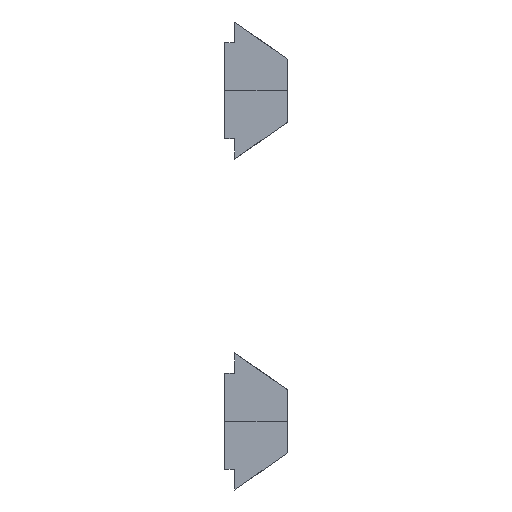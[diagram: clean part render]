
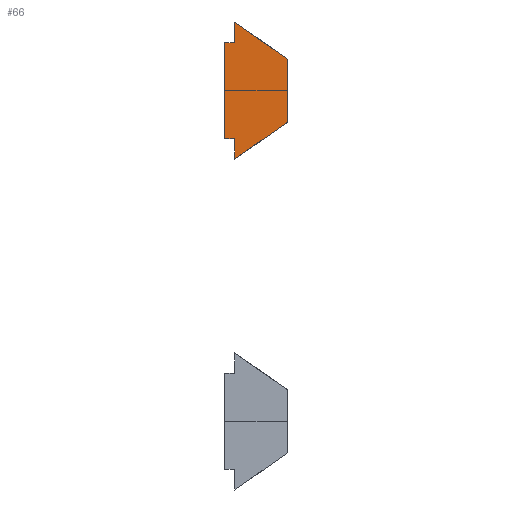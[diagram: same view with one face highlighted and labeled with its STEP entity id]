
A CAD part, left-side view. The second image highlights one B-rep face of the part: STEP entity #66.
In plain terms, the highlighted planar face has unit normal (-1, 0, 0) as drawn and (0, 1, 0) by its records, which use the part's own axes.
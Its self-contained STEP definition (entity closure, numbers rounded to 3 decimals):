
#66=ADVANCED_FACE('',(#79),#528,.T.);
#79=FACE_OUTER_BOUND('',#93,.T.);
#93=EDGE_LOOP('',(#144,#145,#146,#147,#148,#149,#150,#151));
#144=ORIENTED_EDGE('',*,*,#359,.F.);
#145=ORIENTED_EDGE('',*,*,#366,.F.);
#146=ORIENTED_EDGE('',*,*,#371,.F.);
#147=ORIENTED_EDGE('',*,*,#374,.F.);
#148=ORIENTED_EDGE('',*,*,#377,.F.);
#149=ORIENTED_EDGE('',*,*,#380,.F.);
#150=ORIENTED_EDGE('',*,*,#385,.F.);
#151=ORIENTED_EDGE('',*,*,#387,.F.);
#179=PCURVE('',#519,#251);
#186=PCURVE('',#520,#258);
#192=PCURVE('',#521,#264);
#196=PCURVE('',#522,#268);
#200=PCURVE('',#523,#272);
#204=PCURVE('',#524,#276);
#210=PCURVE('',#525,#282);
#214=PCURVE('',#526,#286);
#224=PCURVE('',#528,#296);
#225=PCURVE('',#528,#297);
#226=PCURVE('',#528,#298);
#227=PCURVE('',#528,#299);
#228=PCURVE('',#528,#300);
#229=PCURVE('',#528,#301);
#230=PCURVE('',#528,#302);
#231=PCURVE('',#528,#303);
#251=DEFINITIONAL_REPRESENTATION('',(#398),#1095);
#258=DEFINITIONAL_REPRESENTATION('',(#410),#1095);
#264=DEFINITIONAL_REPRESENTATION('',(#421),#1095);
#268=DEFINITIONAL_REPRESENTATION('',(#428),#1095);
#272=DEFINITIONAL_REPRESENTATION('',(#435),#1095);
#276=DEFINITIONAL_REPRESENTATION('',(#442),#1095);
#282=DEFINITIONAL_REPRESENTATION('',(#451),#1095);
#286=DEFINITIONAL_REPRESENTATION('',(#457),#1095);
#296=DEFINITIONAL_REPRESENTATION('',(#468),#1095);
#297=DEFINITIONAL_REPRESENTATION('',(#469),#1095);
#298=DEFINITIONAL_REPRESENTATION('',(#470),#1095);
#299=DEFINITIONAL_REPRESENTATION('',(#471),#1095);
#300=DEFINITIONAL_REPRESENTATION('',(#472),#1095);
#301=DEFINITIONAL_REPRESENTATION('',(#473),#1095);
#302=DEFINITIONAL_REPRESENTATION('',(#474),#1095);
#303=DEFINITIONAL_REPRESENTATION('',(#475),#1095);
#323=SURFACE_CURVE('',#397,(#179,#224),.PCURVE_S1.);
#330=SURFACE_CURVE('',#409,(#186,#225),.PCURVE_S1.);
#335=SURFACE_CURVE('',#420,(#192,#226),.PCURVE_S1.);
#338=SURFACE_CURVE('',#427,(#196,#227),.PCURVE_S1.);
#341=SURFACE_CURVE('',#434,(#200,#228),.PCURVE_S1.);
#344=SURFACE_CURVE('',#441,(#204,#229),.PCURVE_S1.);
#349=SURFACE_CURVE('',#450,(#210,#230),.PCURVE_S1.);
#351=SURFACE_CURVE('',#456,(#214,#231),.PCURVE_S1.);
#359=EDGE_CURVE('',#495,#496,#323,.T.);
#366=EDGE_CURVE('',#498,#495,#330,.T.);
#371=EDGE_CURVE('',#500,#498,#335,.T.);
#374=EDGE_CURVE('',#502,#500,#338,.T.);
#377=EDGE_CURVE('',#504,#502,#341,.T.);
#380=EDGE_CURVE('',#506,#504,#344,.T.);
#385=EDGE_CURVE('',#508,#506,#349,.T.);
#387=EDGE_CURVE('',#496,#508,#351,.T.);
#397=B_SPLINE_CURVE_WITH_KNOTS('',1,(#738,#739),.UNSPECIFIED.,.F.,.F.,(2,
2),(0.,3.906),.UNSPECIFIED.);
#398=B_SPLINE_CURVE_WITH_KNOTS('',1,(#740,#741),.UNSPECIFIED.,.F.,.F.,(2,
2),(0.,3.906),.UNSPECIFIED.);
#409=B_SPLINE_CURVE_WITH_KNOTS('',1,(#778,#779),.UNSPECIFIED.,.F.,.F.,(2,
2),(-3.819,0.),.UNSPECIFIED.);
#410=B_SPLINE_CURVE_WITH_KNOTS('',1,(#780,#781),.UNSPECIFIED.,.F.,.F.,(2,
2),(-3.819,0.),.UNSPECIFIED.);
#420=B_SPLINE_CURVE_WITH_KNOTS('',1,(#830,#831),.UNSPECIFIED.,.F.,.F.,(2,
2),(-7.725,-3.819),.UNSPECIFIED.);
#421=B_SPLINE_CURVE_WITH_KNOTS('',1,(#832,#833),.UNSPECIFIED.,.F.,.F.,(2,
2),(-7.725,-3.819),.UNSPECIFIED.);
#427=B_SPLINE_CURVE_WITH_KNOTS('',1,(#844,#845),.UNSPECIFIED.,.F.,.F.,(2,
2),(-8.975,-7.725),.UNSPECIFIED.);
#428=B_SPLINE_CURVE_WITH_KNOTS('',1,(#846,#847),.UNSPECIFIED.,.F.,.F.,(2,
2),(-8.975,-7.725),.UNSPECIFIED.);
#434=B_SPLINE_CURVE_WITH_KNOTS('',1,(#858,#859),.UNSPECIFIED.,.F.,.F.,(2,
2),(-9.575,-8.975),.UNSPECIFIED.);
#435=B_SPLINE_CURVE_WITH_KNOTS('',1,(#860,#861),.UNSPECIFIED.,.F.,.F.,(2,
2),(-9.575,-8.975),.UNSPECIFIED.);
#441=B_SPLINE_CURVE_WITH_KNOTS('',1,(#872,#873),.UNSPECIFIED.,.F.,.F.,(2,
2),(-15.375,-9.575),.UNSPECIFIED.);
#442=B_SPLINE_CURVE_WITH_KNOTS('',1,(#874,#875),.UNSPECIFIED.,.F.,.F.,(2,
2),(-15.375,-9.575),.UNSPECIFIED.);
#450=B_SPLINE_CURVE_WITH_KNOTS('',1,(#946,#947),.UNSPECIFIED.,.F.,.F.,(2,
2),(-15.975,-15.375),.UNSPECIFIED.);
#451=B_SPLINE_CURVE_WITH_KNOTS('',1,(#948,#949),.UNSPECIFIED.,.F.,.F.,(2,
2),(-15.975,-15.375),.UNSPECIFIED.);
#456=B_SPLINE_CURVE_WITH_KNOTS('',1,(#958,#959),.UNSPECIFIED.,.F.,.F.,(2,
2),(-17.225,-15.975),.UNSPECIFIED.);
#457=B_SPLINE_CURVE_WITH_KNOTS('',1,(#960,#961),.UNSPECIFIED.,.F.,.F.,(2,
2),(-17.225,-15.975),.UNSPECIFIED.);
#468=B_SPLINE_CURVE_WITH_KNOTS('',1,(#982,#983),.UNSPECIFIED.,.F.,.F.,(2,
2),(0.,3.906),.UNSPECIFIED.);
#469=B_SPLINE_CURVE_WITH_KNOTS('',1,(#984,#985),.UNSPECIFIED.,.F.,.F.,(2,
2),(-3.819,0.),.UNSPECIFIED.);
#470=B_SPLINE_CURVE_WITH_KNOTS('',1,(#986,#987),.UNSPECIFIED.,.F.,.F.,(2,
2),(-7.725,-3.819),.UNSPECIFIED.);
#471=B_SPLINE_CURVE_WITH_KNOTS('',1,(#988,#989),.UNSPECIFIED.,.F.,.F.,(2,
2),(-8.975,-7.725),.UNSPECIFIED.);
#472=B_SPLINE_CURVE_WITH_KNOTS('',1,(#990,#991),.UNSPECIFIED.,.F.,.F.,(2,
2),(-9.575,-8.975),.UNSPECIFIED.);
#473=B_SPLINE_CURVE_WITH_KNOTS('',1,(#992,#993),.UNSPECIFIED.,.F.,.F.,(2,
2),(-15.375,-9.575),.UNSPECIFIED.);
#474=B_SPLINE_CURVE_WITH_KNOTS('',1,(#994,#995),.UNSPECIFIED.,.F.,.F.,(2,
2),(-15.975,-15.375),.UNSPECIFIED.);
#475=B_SPLINE_CURVE_WITH_KNOTS('',1,(#996,#997),.UNSPECIFIED.,.F.,.F.,(2,
2),(-17.225,-15.975),.UNSPECIFIED.);
#495=VERTEX_POINT('',#678);
#496=VERTEX_POINT('',#679);
#498=VERTEX_POINT('',#681);
#500=VERTEX_POINT('',#683);
#502=VERTEX_POINT('',#685);
#504=VERTEX_POINT('',#687);
#506=VERTEX_POINT('',#689);
#508=VERTEX_POINT('',#691);
#519=PLANE('',#577);
#520=PLANE('',#578);
#521=PLANE('',#579);
#522=PLANE('',#580);
#523=PLANE('',#581);
#524=PLANE('',#582);
#525=PLANE('',#583);
#526=PLANE('',#584);
#528=PLANE('',#586);
#577=AXIS2_PLACEMENT_3D('',#630,#600,$);
#578=AXIS2_PLACEMENT_3D('',#631,#601,$);
#579=AXIS2_PLACEMENT_3D('',#632,#602,$);
#580=AXIS2_PLACEMENT_3D('',#633,#603,$);
#581=AXIS2_PLACEMENT_3D('',#634,#604,$);
#582=AXIS2_PLACEMENT_3D('',#635,#605,$);
#583=AXIS2_PLACEMENT_3D('',#636,#606,$);
#584=AXIS2_PLACEMENT_3D('',#637,#607,$);
#586=AXIS2_PLACEMENT_3D('',#675,#609,$);
#600=DIRECTION('',(-0.574,0.,-0.819));
#601=DIRECTION('',(-1.,0.,0.));
#602=DIRECTION('',(-0.574,0.,0.819));
#603=DIRECTION('',(1.,0.,0.));
#604=DIRECTION('',(0.,0.,1.));
#605=DIRECTION('',(1.,0.,0.));
#606=DIRECTION('',(0.,0.,-1.));
#607=DIRECTION('',(1.,0.,0.));
#609=DIRECTION('',(0.,1.,0.));
#630=CARTESIAN_POINT('',(-0.6,-11.,-4.15));
#631=CARTESIAN_POINT('',(-3.8,-11.,-1.909));
#632=CARTESIAN_POINT('',(-3.8,-11.,1.909));
#633=CARTESIAN_POINT('',(-0.6,-11.,4.15));
#634=CARTESIAN_POINT('',(-0.6,-11.,2.9));
#635=CARTESIAN_POINT('',(0.,-11.,2.9));
#636=CARTESIAN_POINT('',(0.,-11.,-2.9));
#637=CARTESIAN_POINT('',(-0.6,-11.,-2.9));
#675=CARTESIAN_POINT('',(-4.275,6.,5.188));
#678=CARTESIAN_POINT('',(-3.8,6.,-1.909));
#679=CARTESIAN_POINT('',(-0.6,6.,-4.15));
#681=CARTESIAN_POINT('',(-3.8,6.,1.909));
#683=CARTESIAN_POINT('',(-0.6,6.,4.15));
#685=CARTESIAN_POINT('',(-0.6,6.,2.9));
#687=CARTESIAN_POINT('',(0.,6.,2.9));
#689=CARTESIAN_POINT('',(0.,6.,-2.9));
#691=CARTESIAN_POINT('',(-0.6,6.,-2.9));
#738=CARTESIAN_POINT('',(-3.8,6.,-1.909));
#739=CARTESIAN_POINT('',(-0.6,6.,-4.15));
#740=CARTESIAN_POINT('',(0.,17.));
#741=CARTESIAN_POINT('',(-3.906,17.));
#778=CARTESIAN_POINT('',(-3.8,6.,1.909));
#779=CARTESIAN_POINT('',(-3.8,6.,-1.909));
#780=CARTESIAN_POINT('',(3.819,17.));
#781=CARTESIAN_POINT('',(0.,17.));
#830=CARTESIAN_POINT('',(-0.6,6.,4.15));
#831=CARTESIAN_POINT('',(-3.8,6.,1.909));
#832=CARTESIAN_POINT('',(7.725,17.));
#833=CARTESIAN_POINT('',(3.819,17.));
#844=CARTESIAN_POINT('',(-0.6,6.,2.9));
#845=CARTESIAN_POINT('',(-0.6,6.,4.15));
#846=CARTESIAN_POINT('',(8.975,17.));
#847=CARTESIAN_POINT('',(7.725,17.));
#858=CARTESIAN_POINT('',(0.,6.,2.9));
#859=CARTESIAN_POINT('',(-0.6,6.,2.9));
#860=CARTESIAN_POINT('',(9.575,17.));
#861=CARTESIAN_POINT('',(8.975,17.));
#872=CARTESIAN_POINT('',(0.,6.,-2.9));
#873=CARTESIAN_POINT('',(0.,6.,2.9));
#874=CARTESIAN_POINT('',(15.375,17.));
#875=CARTESIAN_POINT('',(9.575,17.));
#946=CARTESIAN_POINT('',(-0.6,6.,-2.9));
#947=CARTESIAN_POINT('',(0.,6.,-2.9));
#948=CARTESIAN_POINT('',(15.975,17.));
#949=CARTESIAN_POINT('',(15.375,17.));
#958=CARTESIAN_POINT('',(-0.6,6.,-4.15));
#959=CARTESIAN_POINT('',(-0.6,6.,-2.9));
#960=CARTESIAN_POINT('',(17.225,17.));
#961=CARTESIAN_POINT('',(15.975,17.));
#982=CARTESIAN_POINT('',(-3.2,-2.241));
#983=CARTESIAN_POINT('',(0.,0.));
#984=CARTESIAN_POINT('',(-3.2,-6.059));
#985=CARTESIAN_POINT('',(-3.2,-2.241));
#986=CARTESIAN_POINT('',(0.,-8.3));
#987=CARTESIAN_POINT('',(-3.2,-6.059));
#988=CARTESIAN_POINT('',(0.,-7.05));
#989=CARTESIAN_POINT('',(0.,-8.3));
#990=CARTESIAN_POINT('',(0.6,-7.05));
#991=CARTESIAN_POINT('',(0.,-7.05));
#992=CARTESIAN_POINT('',(0.6,-1.25));
#993=CARTESIAN_POINT('',(0.6,-7.05));
#994=CARTESIAN_POINT('',(0.,-1.25));
#995=CARTESIAN_POINT('',(0.6,-1.25));
#996=CARTESIAN_POINT('',(0.,0.));
#997=CARTESIAN_POINT('',(0.,-1.25));
#1095=(
GEOMETRIC_REPRESENTATION_CONTEXT(2)
PARAMETRIC_REPRESENTATION_CONTEXT()
REPRESENTATION_CONTEXT('pspace','')
);
